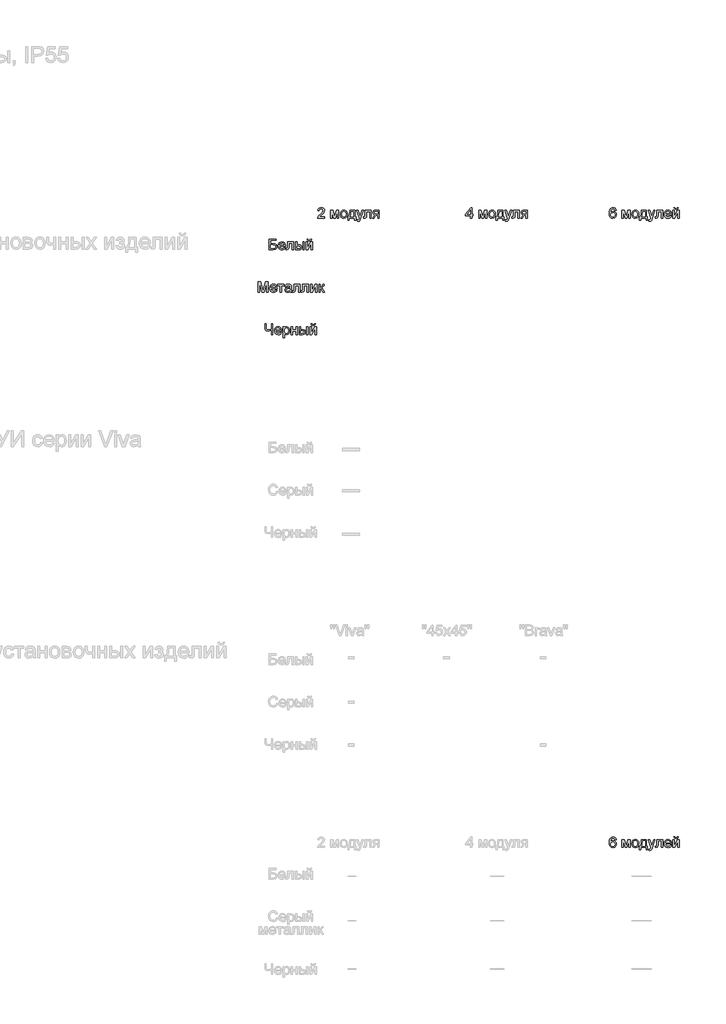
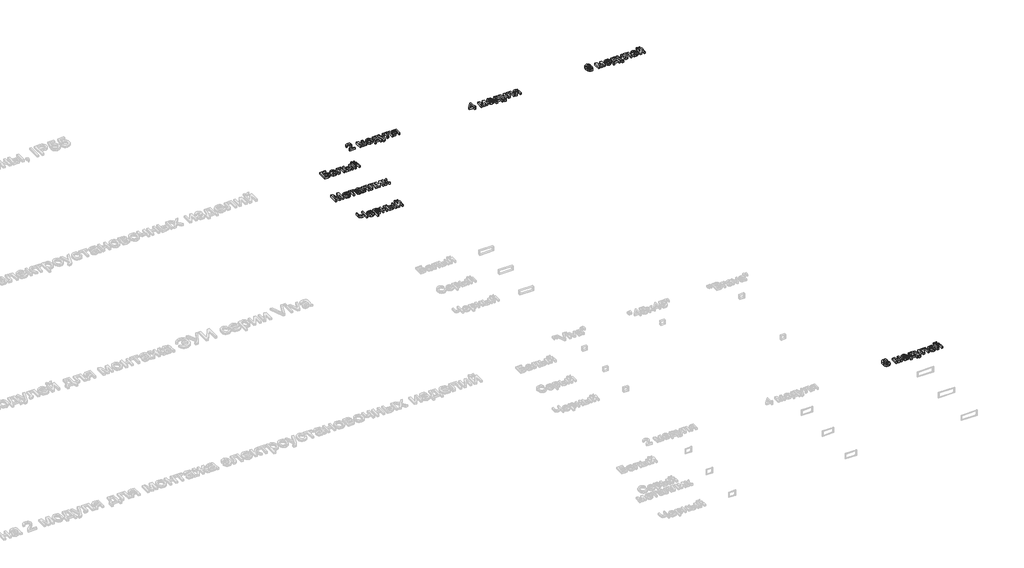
# One storey, part 24 of 48: 7 proxies.
"""IFC4 building model written with IfcOpenShell, lengths in millimetres."""

from ifc_helpers import new_model, si_unit, origin, origin_with_axes, place, context, project, spatial, polyline, outline, extrude, element, save

model = new_model("IFC4")

# Units and contexts
model_context = context("Model", 3, world=origin())
ifc_project = project(units=[si_unit("LENGTHUNIT", "METRE", prefix="MILLI")], contexts=[model_context])

# Site, building, storey
site = spatial("IfcSite", under=ifc_project)
building = spatial("IfcBuilding", under=site)
storey = spatial("IfcBuildingStorey", under=building, Name="Этаж 01", Elevation=0.0)

# Proxies
placement = place(None, origin())
element("IfcBuildingElementProxy", 1, Name="100 мм Arial", ObjectType="100 мм Arial", at=placement, inside=storey, context=model_context, shape_type="SweptSolid", body=[
    extrude(outline(polyline([(76522.1539109, -1626.7847001), (76584.9391047, -1626.7847001), (76584.9391047, -1639.3417388), (76534.7109496, -1639.3417388), (76534.7109496, -1669.1647059), (76558.2308719, -1669.1647059), (76578.9548909, -1671.7153544), (76591.2912005, -1681.3538627), (76595.9265136, -1697.8349761), (76592.6278384, -1712.1455857), (76582.7808637, -1723.02263), (76560.4872148, -1727.2410102), (76522.1539109, -1727.2410102), (76522.1539109, -1626.7847001)]), holes=[polyline([(76534.7109496, -1714.6839714), (76561.6153862, -1714.6839714), (76577.9248213, -1710.5391676), (76582.0083115, -1705.3581629), (76583.3694749, -1698.1047562), (76580.2547406, -1688.2700442), (76571.5849883, -1683.0215944), (76552.663591, -1681.7217447), (76534.7109496, -1681.7217447), (76534.7109496, -1714.6839714)])]), origin_with_axes(), (0.0, 0.0, 1.0), 20.0),
    extrude(outline(polyline([(76663.2734442, -1705.2661924), (76675.5852283, -1706.8358222), (76671.1491846, -1716.1125799), (76664.0705219, -1723.0471555), (76654.5086557, -1727.3697689), (76642.6230015, -1728.8106401), (76627.8893276, -1726.3243709), (76616.5524308, -1718.8655635), (76609.3235496, -1706.9185957), (76606.9139225, -1690.9678455), (76609.3480751, -1674.4806007), (76616.6505327, -1662.1504225), (76627.8341453, -1654.4616888), (76641.911763, -1651.8987776), (76655.550988, -1654.4555575), (76666.4494921, -1662.1258971), (76673.5955999, -1674.4315498), (76675.9776358, -1690.8942691), (76675.9040594, -1694.2787834), (76619.4709613, -1694.2787834), (76621.6445308, -1703.6781684), (76626.6937112, -1710.5882186), (76633.9808403, -1714.8372556), (76642.8682562, -1716.2536013), (76655.1800403, -1713.6293764), (76663.2734442, -1705.2661924)]), holes=[polyline([(76619.4709613, -1681.7217447), (76663.420597, -1681.7217447), (76658.3928764, -1670.3419283), (76651.0720247, -1665.9273444), (76641.8627121, -1664.4558164), (76626.3994056, -1669.1524432), (76621.5341662, -1674.643082), (76619.4709613, -1681.7217447)])]), origin_with_axes(), (0.0, 0.0, 1.0), 20.0),
    extrude(outline(polyline([(76694.8131939, -1653.4684074), (76751.3198684, -1653.4684074), (76751.3198684, -1727.1674338), (76738.7628296, -1727.1674338), (76738.7628296, -1666.0254462), (76707.3702327, -1666.0254462), (76707.3702327, -1701.2194904), (76706.5241041, -1717.4553491), (76701.8765282, -1724.310217), (76690.8891193, -1727.2410102), (76680.6865253, -1726.6033481), (76680.6865253, -1714.6839714), (76686.3028571, -1714.6839714), (76691.9805026, -1713.9114193), (76694.2491082, -1711.4588726), (76694.8131939, -1700.5082519), (76694.8131939, -1653.4684074)])), origin_with_axes(), (0.0, 0.0, 1.0), 20.0),
    extrude(outline(polyline([(76839.2191398, -1653.4684074), (76851.7761785, -1653.4684074), (76851.7761785, -1727.2410102), (76839.2191398, -1727.2410102), (76839.2191398, -1653.4684074)])), origin_with_axes(), (0.0, 0.0, 1.0), 20.0),
    extrude(outline(polyline([(76770.1554265, -1653.4684074), (76782.7124653, -1653.4684074), (76782.7124653, -1680.1521148), (76798.2370855, -1680.1521148), (76811.6555813, -1681.7248104), (76821.5975922, -1686.442897), (76827.7504186, -1693.9262299), (76829.8013607, -1703.7946644), (76828.0815124, -1712.7801821), (76822.9219674, -1720.3616169), (76813.9855006, -1725.5211619), (76800.9348868, -1727.2410102), (76770.1554265, -1727.2410102), (76770.1554265, -1653.4684074)]), holes=[polyline([(76782.7124653, -1714.6839714), (76795.6128606, -1714.6839714), (76812.2656523, -1712.0474838), (76817.2443219, -1703.8191899), (76813.5532392, -1696.093668), (76797.2560669, -1692.7091536), (76782.7124653, -1692.7091536), (76782.7124653, -1714.6839714)])]), origin_with_axes(), (0.0, 0.0, 1.0), 20.0),
    extrude(outline(polyline([(76870.6117367, -1653.4684074), (76883.1687755, -1653.4684074), (76883.1687755, -1709.7298272), (76914.0218121, -1653.4684074), (76930.2576708, -1653.4684074), (76930.2576708, -1727.2410102), (76917.7006321, -1727.2410102), (76917.7006321, -1671.3229469), (76887.0437991, -1727.2410102), (76870.6117367, -1727.2410102), (76870.6117367, -1653.4684074)])), origin_with_axes(), (0.0, 0.0, 1.0), 20.0),
    extrude(outline(polyline([(76911.4221127, -1626.7847001), (76920.8398918, -1626.7847001), (76914.7453134, -1640.7519531), (76901.2195187, -1645.6202582), (76886.5778153, -1640.7887413), (76880.0295158, -1626.7847001), (76889.4472948, -1626.7847001), (76892.978962, -1633.8602971), (76900.0913472, -1636.2024791), (76907.8904455, -1633.9338735), (76911.4221127, -1626.7847001)])), origin_with_axes(), (0.0, 0.0, 1.0), 20.0),
])
element("IfcBuildingElementProxy", 2, Name="100 мм Arial", ObjectType="100 мм Arial", at=placement, inside=storey, context=model_context, shape_type="SweptSolid", body=[
    extrude(outline(polyline([(76418.558341, -2127.2410102), (76418.558341, -2026.7847001), (76440.1652769, -2026.7847001), (76460.7176177, -2097.5897214), (76464.8624215, -2112.3785776), (76469.3505818, -2096.3634481), (76489.5595661, -2026.7847001), (76511.1665019, -2026.7847001), (76511.1665019, -2127.2410102), (76498.6094632, -2127.2410102), (76498.6094632, -2039.3417388), (76473.3727583, -2127.2410102), (76456.3520847, -2127.2410102), (76431.1153798, -2039.3417388), (76431.1153798, -2127.2410102), (76418.558341, -2127.2410102)])), origin_with_axes(), (0.0, 0.0, 1.0), 20.0),
    extrude(outline(polyline([(76583.2223221, -2105.2661924), (76595.5341062, -2106.8358222), (76591.0980624, -2116.1125799), (76584.0193997, -2123.0471555), (76574.4575335, -2127.3697689), (76562.5718794, -2128.8106401), (76547.8382055, -2126.3243709), (76536.5013087, -2118.8655635), (76529.2724275, -2106.9185957), (76526.8628004, -2090.9678455), (76529.2969529, -2074.4806007), (76536.5994105, -2062.1504225), (76547.7830232, -2054.4616888), (76561.8606409, -2051.8987776), (76575.4998658, -2054.4555575), (76586.3983699, -2062.1258971), (76593.5444777, -2074.4315498), (76595.9265136, -2090.8942691), (76595.8529372, -2094.2787834), (76539.4198392, -2094.2787834), (76541.5934086, -2103.6781684), (76546.642589, -2110.5882186), (76553.9297182, -2114.8372556), (76562.8171341, -2116.2536013), (76575.1289182, -2113.6293764), (76583.2223221, -2105.2661924)]), holes=[polyline([(76539.4198392, -2081.7217447), (76583.3694749, -2081.7217447), (76578.3417543, -2070.3419283), (76571.0209026, -2065.9273444), (76561.8115899, -2064.4558164), (76546.3482834, -2069.1524432), (76541.483044, -2074.643082), (76539.4198392, -2081.7217447)])]), origin_with_axes(), (0.0, 0.0, 1.0), 20.0),
    extrude(outline(polyline([(76602.205033, -2053.4684074), (76661.8509672, -2053.4684074), (76661.8509672, -2066.0254462), (76638.3065195, -2066.0254462), (76638.3065195, -2127.2410102), (76625.7494807, -2127.2410102), (76625.7494807, -2066.0254462), (76602.205033, -2066.0254462), (76602.205033, -2053.4684074)])), origin_with_axes(), (0.0, 0.0, 1.0), 20.0),
    extrude(outline(polyline([(76719.9272715, -2117.8232311), (76707.7503774, -2126.333568), (76694.2981591, -2128.8106401), (76683.8043252, -2127.320718), (76676.0634749, -2122.8509517), (76671.290206, -2116.0635289), (76669.6991164, -2107.6206371), (76672.1026121, -2097.6878233), (76678.4179197, -2090.4773362), (76687.2102994, -2086.3570578), (76698.075081, -2084.4685969), (76719.8536951, -2080.1521148), (76719.9272715, -2077.3562117), (76716.4691807, -2068.0855854), (76702.5877668, -2064.4558164), (76689.8835752, -2066.8715748), (76683.825785, -2075.4432253), (76671.2687462, -2073.8735954), (76676.701137, -2061.6108623), (76687.639495, -2054.4249006), (76704.2064475, -2051.8987776), (76719.4244994, -2054.130595), (76728.0206754, -2059.7346641), (76731.8711736, -2068.2572637), (76732.4843102, -2079.2446726), (76732.4843102, -2094.8673946), (76733.1219724, -2116.682797), (76735.6235699, -2127.2410102), (76723.0665312, -2127.2410102), (76719.9272715, -2117.8232311)]), holes=[polyline([(76719.9272715, -2092.7091536), (76699.6692363, -2096.5596518), (76688.8657683, -2098.5952655), (76683.9729378, -2101.9062035), (76682.2561552, -2106.7377204), (76685.9962888, -2113.5312745), (76696.971435, -2116.2536013), (76709.6756265, -2113.2492317), (76717.8671323, -2105.9774309), (76719.8536951, -2096.2653462), (76719.9272715, -2092.7091536)])]), origin_with_axes(), (0.0, 0.0, 1.0), 20.0),
    extrude(outline(polyline([(76756.0287579, -2053.4684074), (76812.5354324, -2053.4684074), (76812.5354324, -2127.1674338), (76799.9783936, -2127.1674338), (76799.9783936, -2066.0254462), (76768.5857967, -2066.0254462), (76768.5857967, -2101.2194904), (76767.7396681, -2117.4553491), (76763.0920922, -2124.310217), (76752.1046833, -2127.2410102), (76741.9020893, -2126.6033481), (76741.9020893, -2114.6839714), (76747.5184211, -2114.6839714), (76753.1960666, -2113.9114193), (76755.4646722, -2111.4588726), (76756.0287579, -2100.5082519), (76756.0287579, -2053.4684074)])), origin_with_axes(), (0.0, 0.0, 1.0), 20.0),
    extrude(outline(polyline([(76837.6495099, -2053.4684074), (76894.1561844, -2053.4684074), (76894.1561844, -2127.1674338), (76881.5991456, -2127.1674338), (76881.5991456, -2066.0254462), (76850.2065487, -2066.0254462), (76850.2065487, -2101.2194904), (76849.3604201, -2117.4553491), (76844.7128442, -2124.310217), (76833.7254353, -2127.2410102), (76823.5228413, -2126.6033481), (76823.5228413, -2114.6839714), (76829.1391731, -2114.6839714), (76834.8168186, -2113.9114193), (76837.0854242, -2111.4588726), (76837.6495099, -2100.5082519), (76837.6495099, -2053.4684074)])), origin_with_axes(), (0.0, 0.0, 1.0), 20.0),
    extrude(outline(polyline([(76912.9917425, -2053.4684074), (76925.5487813, -2053.4684074), (76925.5487813, -2109.7298272), (76956.401818, -2053.4684074), (76972.6376767, -2053.4684074), (76972.6376767, -2127.2410102), (76960.0806379, -2127.2410102), (76960.0806379, -2071.3229469), (76929.423805, -2127.2410102), (76912.9917425, -2127.2410102), (76912.9917425, -2053.4684074)])), origin_with_axes(), (0.0, 0.0, 1.0), 20.0),
    extrude(outline(polyline([(76991.4732348, -2053.4684074), (77004.0302736, -2053.4684074), (77004.0302736, -2084.8610044), (77012.4425086, -2082.6046615), (77019.3341646, -2069.4590115), (77025.060861, -2058.1159833), (77030.1131071, -2054.4249006), (77039.2978942, -2053.4684074), (77041.7013899, -2053.4684074), (77041.7013899, -2066.0990226), (77038.3168756, -2066.0254462), (77032.185509, -2067.3498214), (77027.8690269, -2075.6149036), (77022.8045181, -2084.554436), (77015.7043956, -2088.9322318), (77023.6261212, -2093.818931), (77031.400694, -2104.1134955), (77044.8406496, -2127.2410102), (77030.5668282, -2127.2410102), (77017.3966528, -2104.6040048), (77010.7747769, -2095.0268102), (77004.0302736, -2092.7091536), (77004.0302736, -2127.2410102), (76991.4732348, -2127.2410102), (76991.4732348, -2053.4684074)])), origin_with_axes(), (0.0, 0.0, 1.0), 20.0),
])
element("IfcBuildingElementProxy", 3, Name="100 мм Arial", ObjectType="100 мм Arial", at=placement, inside=storey, context=model_context, shape_type="SweptSolid", body=[
    extrude(outline(polyline([(76555.9009525, -2527.2410102), (76543.3439138, -2527.2410102), (76543.3439138, -2487.0192454), (76512.2456225, -2494.2787834), (76493.8883109, -2489.3123765), (76483.2442585, -2476.7062868), (76480.5587199, -2456.705769), (76480.5587199, -2426.7847001), (76493.1157587, -2426.7847001), (76493.1157587, -2455.0135118), (76494.6240749, -2468.5914231), (76499.1490234, -2476.559134), (76513.643574, -2481.7217447), (76543.3439138, -2475.4922762), (76543.3439138, -2426.7847001), (76555.9009525, -2426.7847001), (76555.9009525, -2527.2410102)])), origin_with_axes(), (0.0, 0.0, 1.0), 20.0),
    extrude(outline(polyline([(76627.9567727, -2505.2661924), (76640.2685568, -2506.8358222), (76635.8325131, -2516.1125799), (76628.7538503, -2523.0471555), (76619.1919841, -2527.3697689), (76607.30633, -2528.8106401), (76592.5726561, -2526.3243709), (76581.2357593, -2518.8655635), (76574.0068781, -2506.9185957), (76571.597251, -2490.9678455), (76574.0314035, -2474.4806007), (76581.3338611, -2462.1504225), (76592.5174738, -2454.4616888), (76606.5950915, -2451.8987776), (76620.2343165, -2454.4555575), (76631.1328206, -2462.1258971), (76638.2789283, -2474.4315498), (76640.6609642, -2490.8942691), (76640.5873878, -2494.2787834), (76584.1542898, -2494.2787834), (76586.3278592, -2503.6781684), (76591.3770396, -2510.5882186), (76598.6641688, -2514.8372556), (76607.5515847, -2516.2536013), (76619.8633688, -2513.6293764), (76627.9567727, -2505.2661924)]), holes=[polyline([(76584.1542898, -2481.7217447), (76628.1039255, -2481.7217447), (76623.0762049, -2470.3419283), (76615.7553532, -2465.9273444), (76606.5460406, -2464.4558164), (76591.082734, -2469.1524432), (76586.2174946, -2474.643082), (76584.1542898, -2481.7217447)])]), origin_with_axes(), (0.0, 0.0, 1.0), 20.0),
    extrude(outline(polyline([(76653.218003, -2555.4943474), (76653.218003, -2453.4684074), (76665.7750418, -2453.4684074), (76665.7750418, -2465.7801916), (76674.4570569, -2455.3691311), (76686.1802298, -2451.8987776), (76702.0972574, -2456.7548199), (76712.4960552, -2470.4400302), (76716.0031969, -2489.7906231), (76712.042334, -2510.1344974), (76700.5398903, -2523.9913859), (76684.6596509, -2528.8106401), (76673.7335556, -2525.5855412), (76665.7750418, -2517.4308237), (76665.7750418, -2555.4943474), (76653.218003, -2555.4943474)]), holes=[polyline([(76665.7750418, -2490.94332), (76667.1331395, -2502.2005091), (76671.2074326, -2510.0731838), (76677.2192375, -2514.7084969), (76684.3898707, -2516.2536013), (76691.6769999, -2514.6533146), (76697.842089, -2509.8524546), (76702.0451408, -2501.6916057), (76703.4461581, -2490.0113523), (76702.0788633, -2478.8154769), (76697.9769791, -2470.8324376), (76691.9743712, -2466.0499717), (76684.9049055, -2464.4558164), (76677.8078487, -2466.1511392), (76671.5753146, -2471.2371078), (76667.22511, -2479.5543066), (76665.7750418, -2490.94332)])]), origin_with_axes(), (0.0, 0.0, 1.0), 20.0),
    extrude(outline(polyline([(76730.1298655, -2453.4684074), (76742.6869042, -2453.4684074), (76742.6869042, -2481.7217447), (76775.649131, -2481.7217447), (76775.649131, -2453.4684074), (76788.2061698, -2453.4684074), (76788.2061698, -2527.2410102), (76775.649131, -2527.2410102), (76775.649131, -2494.2787834), (76742.6869042, -2494.2787834), (76742.6869042, -2527.2410102), (76730.1298655, -2527.2410102), (76730.1298655, -2453.4684074)])), origin_with_axes(), (0.0, 0.0, 1.0), 20.0),
    extrude(outline(polyline([(76876.1054412, -2453.4684074), (76888.6624799, -2453.4684074), (76888.6624799, -2527.2410102), (76876.1054412, -2527.2410102), (76876.1054412, -2453.4684074)])), origin_with_axes(), (0.0, 0.0, 1.0), 20.0),
    extrude(outline(polyline([(76807.0417279, -2453.4684074), (76819.5987667, -2453.4684074), (76819.5987667, -2480.1521148), (76835.1233869, -2480.1521148), (76848.5418827, -2481.7248104), (76858.4838936, -2486.442897), (76864.63672, -2493.9262299), (76866.6876621, -2503.7946644), (76864.9678137, -2512.7801821), (76859.8082688, -2520.3616169), (76850.871802, -2525.5211619), (76837.8211882, -2527.2410102), (76807.0417279, -2527.2410102), (76807.0417279, -2453.4684074)]), holes=[polyline([(76819.5987667, -2514.6839714), (76832.499162, -2514.6839714), (76849.1519536, -2512.0474838), (76854.1306233, -2503.8191899), (76850.4395406, -2496.093668), (76834.1423682, -2492.7091536), (76819.5987667, -2492.7091536), (76819.5987667, -2514.6839714)])]), origin_with_axes(), (0.0, 0.0, 1.0), 20.0),
    extrude(outline(polyline([(76907.4980381, -2453.4684074), (76920.0550768, -2453.4684074), (76920.0550768, -2509.7298272), (76950.9081135, -2453.4684074), (76967.1439722, -2453.4684074), (76967.1439722, -2527.2410102), (76954.5869335, -2527.2410102), (76954.5869335, -2471.3229469), (76923.9301005, -2527.2410102), (76907.4980381, -2527.2410102), (76907.4980381, -2453.4684074)])), origin_with_axes(), (0.0, 0.0, 1.0), 20.0),
    extrude(outline(polyline([(76948.3084141, -2426.7847001), (76957.7261931, -2426.7847001), (76951.6316148, -2440.7519531), (76938.1058201, -2445.6202582), (76923.4641167, -2440.7887413), (76916.9158171, -2426.7847001), (76926.3335962, -2426.7847001), (76929.8652634, -2433.8602971), (76936.9776486, -2436.2024791), (76944.7767469, -2433.9338735), (76948.3084141, -2426.7847001)])), origin_with_axes(), (0.0, 0.0, 1.0), 20.0),
])
element("IfcBuildingElementProxy", 4, Name="100 мм Arial", ObjectType="100 мм Arial", at=placement, inside=storey, context=model_context, shape_type="SweptSolid", body=[
    extrude(outline(polyline([(77045.8481443, -1415.9173564), (77045.8481443, -1428.4743951), (76979.9236908, -1428.4743951), (76981.2725914, -1419.8169055), (76988.9000115, -1406.4873146), (77004.6208354, -1391.9314503), (77026.3013476, -1371.0112275), (77031.7214757, -1356.786457), (77026.607916, -1345.2717506), (77013.2537995, -1340.5751238), (76999.3355974, -1345.161386), (76994.0503594, -1357.8410521), (76981.4933206, -1356.2714222), (76984.5375441, -1344.125185), (76991.1195662, -1335.2530976), (77000.8960302, -1329.8268381), (77013.5235797, -1328.018085), (77026.2430997, -1330.0291732), (77036.0011696, -1336.0624379), (77042.2091783, -1345.0755468), (77044.2785145, -1356.0261676), (77042.046697, -1367.9332815), (77034.6277435, -1380.2450656), (77016.6383139, -1397.4496802), (77002.1928142, -1409.5284724), (76996.5274315, -1415.9173564), (77045.8481443, -1415.9173564)])), origin_with_axes(), (0.0, 0.0, 1.0), 20.0),
    extrude(outline(polyline([(77100.7851889, -1354.7017924), (77122.3921248, -1354.7017924), (77139.0449164, -1413.7591153), (77156.9975578, -1354.7017924), (77177.6970514, -1354.7017924), (77177.6970514, -1428.4743951), (77165.1400126, -1428.4743951), (77165.1400126, -1369.0737156), (77147.0892694, -1428.4743951), (77130.608156, -1428.4743951), (77113.3422277, -1366.2287616), (77113.3422277, -1428.4743951), (77100.7851889, -1428.4743951), (77100.7851889, -1354.7017924)])), origin_with_axes(), (0.0, 0.0, 1.0), 20.0),
    extrude(outline(polyline([(77193.3933499, -1391.5880938), (77196.1095453, -1373.8009993), (77204.2581314, -1361.2991428), (77214.3258354, -1355.1739076), (77226.3801021, -1353.1321625), (77239.5717373, -1355.6184317), (77250.1084908, -1363.0772391), (77257.0154752, -1374.9199737), (77259.3178034, -1390.5580242), (77255.246576, -1412.900724), (77243.388513, -1425.5436019), (77226.3801021, -1430.044025), (77213.0290513, -1427.5669529), (77202.5045606, -1420.1357366), (77195.6711525, -1408.0446817), (77193.3933499, -1391.5880938)]), holes=[polyline([(77205.9503886, -1391.5635683), (77207.4035225, -1402.9280563), (77211.7629241, -1411.0245258), (77218.3234864, -1415.8713711), (77226.3801021, -1417.4869862), (77234.3999296, -1415.8621741), (77240.9482291, -1410.9877376), (77245.3076307, -1402.7839691), (77246.7607646, -1391.1711608), (77245.2984337, -1380.1377667), (77240.9114409, -1372.1516617), (77234.3539443, -1367.3048164), (77226.3801021, -1365.6892013), (77218.3234864, -1367.298685), (77211.7629241, -1372.1271362), (77207.4035225, -1380.2052117), (77205.9503886, -1391.5635683)])]), origin_with_axes(), (0.0, 0.0, 1.0), 20.0),
    extrude(outline(polyline([(77284.4318809, -1354.7017924), (77331.5207763, -1354.7017924), (77331.5207763, -1415.9173564), (77340.9385554, -1415.9173564), (77340.9385554, -1448.8795831), (77328.3815166, -1448.8795831), (77328.3815166, -1428.4743951), (77276.5837317, -1428.4743951), (77276.5837317, -1448.8795831), (77264.0266929, -1448.8795831), (77264.0266929, -1415.9173564), (77271.8748422, -1415.9173564), (77281.5746641, -1391.9682385), (77284.4318809, -1354.7017924)]), holes=[polyline([(77295.4192899, -1367.2588311), (77292.4762339, -1395.8677876), (77286.0015108, -1415.9173564), (77318.9637375, -1415.9173564), (77318.9637375, -1367.2588311), (77295.4192899, -1367.2588311)])]), origin_with_axes(), (0.0, 0.0, 1.0), 20.0),
    extrude(outline(polyline([(77355.065224, -1456.7277324), (77353.4955942, -1444.6366775), (77359.8722154, -1445.7403234), (77365.8319037, -1444.3546346), (77369.4861982, -1440.4918736), (77372.9197635, -1431.2457728), (77373.9007822, -1428.204615), (77347.2170748, -1354.7017924), (77360.4608266, -1354.7017924), (77374.6120207, -1395.6593212), (77379.5416394, -1412.0423327), (77384.4712581, -1397.5723075), (77399.0148597, -1354.7017924), (77412.1605097, -1354.7017924), (77386.4823464, -1430.2402287), (77379.8114195, -1446.6232402), (77372.527356, -1455.4769336), (77362.741695, -1458.2973622), (77355.065224, -1456.7277324)])), origin_with_axes(), (0.0, 0.0, 1.0), 20.0),
    extrude(outline(polyline([(77428.8378268, -1354.7017924), (77485.3445012, -1354.7017924), (77485.3445012, -1428.4008187), (77472.7874625, -1428.4008187), (77472.7874625, -1367.2588311), (77441.3948655, -1367.2588311), (77441.3948655, -1402.4528753), (77440.5487369, -1418.6887341), (77435.9011611, -1425.5436019), (77424.9137522, -1428.4743951), (77414.7111582, -1427.836733), (77414.7111582, -1415.9173564), (77420.3274899, -1415.9173564), (77426.0051354, -1415.1448042), (77428.273741, -1412.6922575), (77428.8378268, -1401.7416368), (77428.8378268, -1354.7017924)])), origin_with_axes(), (0.0, 0.0, 1.0), 20.0),
    extrude(outline(polyline([(77560.6867338, -1354.7017924), (77560.6867338, -1428.4743951), (77548.1296951, -1428.4743951), (77548.1296951, -1400.2210579), (77541.28709, -1400.2210579), (77531.9674127, -1401.8152132), (77523.2118213, -1412.532842), (77513.205431, -1428.4743951), (77498.6863549, -1428.4743951), (77511.2924446, -1408.3144618), (77521.9855479, -1397.8666131), (77513.4016347, -1395.2362569), (77507.36837, -1390.2391931), (77502.6104295, -1376.0144226), (77504.2352417, -1367.4182467), (77509.1096781, -1360.6124298), (77517.0620606, -1356.1794517), (77527.9207108, -1354.7017924), (77560.6867338, -1354.7017924)]), holes=[polyline([(77548.1296951, -1367.2588311), (77531.5750053, -1367.2588311), (77518.1718379, -1370.1650989), (77515.1674683, -1376.9709158), (77519.594315, -1385.0765824), (77535.2783507, -1387.6640191), (77548.1296951, -1387.6640191), (77548.1296951, -1367.2588311)])]), origin_with_axes(), (0.0, 0.0, 1.0), 20.0),
])
element("IfcBuildingElementProxy", 5, Name="100 мм Arial", ObjectType="100 мм Arial", at=placement, inside=storey, context=model_context, shape_type="SweptSolid", body=[
    extrude(outline(polyline([(78422.3036966, -1428.4743951), (78422.3036966, -1404.9299474), (78376.7844311, -1404.9299474), (78376.7844311, -1392.3729087), (78425.4429563, -1329.5877148), (78434.8607354, -1329.5877148), (78434.8607354, -1392.3729087), (78447.4177742, -1392.3729087), (78447.4177742, -1404.9299474), (78434.8607354, -1404.9299474), (78434.8607354, -1428.4743951), (78422.3036966, -1428.4743951)]), holes=[polyline([(78422.3036966, -1392.3729087), (78422.3036966, -1353.5736209), (78392.2354749, -1392.3729087), (78422.3036966, -1392.3729087)])]), origin_with_axes(), (0.0, 0.0, 1.0), 20.0),
    extrude(outline(polyline([(78500.7851889, -1354.7017924), (78522.3921248, -1354.7017924), (78539.0449164, -1413.7591153), (78556.9975578, -1354.7017924), (78577.6970514, -1354.7017924), (78577.6970514, -1428.4743951), (78565.1400126, -1428.4743951), (78565.1400126, -1369.0737156), (78547.0892694, -1428.4743951), (78530.608156, -1428.4743951), (78513.3422277, -1366.2287616), (78513.3422277, -1428.4743951), (78500.7851889, -1428.4743951), (78500.7851889, -1354.7017924)])), origin_with_axes(), (0.0, 0.0, 1.0), 20.0),
    extrude(outline(polyline([(78593.3933499, -1391.5880938), (78596.1095453, -1373.8009993), (78604.2581314, -1361.2991428), (78614.3258354, -1355.1739076), (78626.3801021, -1353.1321625), (78639.5717373, -1355.6184317), (78650.1084908, -1363.0772391), (78657.0154752, -1374.9199737), (78659.3178034, -1390.5580242), (78655.246576, -1412.900724), (78643.388513, -1425.5436019), (78626.3801021, -1430.044025), (78613.0290513, -1427.5669529), (78602.5045606, -1420.1357366), (78595.6711525, -1408.0446817), (78593.3933499, -1391.5880938)]), holes=[polyline([(78605.9503886, -1391.5635683), (78607.4035225, -1402.9280563), (78611.7629241, -1411.0245258), (78618.3234864, -1415.8713711), (78626.3801021, -1417.4869862), (78634.3999296, -1415.8621741), (78640.9482291, -1410.9877376), (78645.3076307, -1402.7839691), (78646.7607646, -1391.1711608), (78645.2984337, -1380.1377667), (78640.9114409, -1372.1516617), (78634.3539443, -1367.3048164), (78626.3801021, -1365.6892013), (78618.3234864, -1367.298685), (78611.7629241, -1372.1271362), (78607.4035225, -1380.2052117), (78605.9503886, -1391.5635683)])]), origin_with_axes(), (0.0, 0.0, 1.0), 20.0),
    extrude(outline(polyline([(78684.4318809, -1354.7017924), (78731.5207763, -1354.7017924), (78731.5207763, -1415.9173564), (78740.9385554, -1415.9173564), (78740.9385554, -1448.8795831), (78728.3815166, -1448.8795831), (78728.3815166, -1428.4743951), (78676.5837317, -1428.4743951), (78676.5837317, -1448.8795831), (78664.0266929, -1448.8795831), (78664.0266929, -1415.9173564), (78671.8748422, -1415.9173564), (78681.5746641, -1391.9682385), (78684.4318809, -1354.7017924)]), holes=[polyline([(78695.4192899, -1367.2588311), (78692.4762339, -1395.8677876), (78686.0015108, -1415.9173564), (78718.9637375, -1415.9173564), (78718.9637375, -1367.2588311), (78695.4192899, -1367.2588311)])]), origin_with_axes(), (0.0, 0.0, 1.0), 20.0),
    extrude(outline(polyline([(78755.065224, -1456.7277324), (78753.4955942, -1444.6366775), (78759.8722154, -1445.7403234), (78765.8319037, -1444.3546346), (78769.4861982, -1440.4918736), (78772.9197635, -1431.2457728), (78773.9007822, -1428.204615), (78747.2170748, -1354.7017924), (78760.4608266, -1354.7017924), (78774.6120207, -1395.6593212), (78779.5416394, -1412.0423327), (78784.4712581, -1397.5723075), (78799.0148597, -1354.7017924), (78812.1605097, -1354.7017924), (78786.4823464, -1430.2402287), (78779.8114195, -1446.6232402), (78772.527356, -1455.4769336), (78762.741695, -1458.2973622), (78755.065224, -1456.7277324)])), origin_with_axes(), (0.0, 0.0, 1.0), 20.0),
    extrude(outline(polyline([(78828.8378268, -1354.7017924), (78885.3445012, -1354.7017924), (78885.3445012, -1428.4008187), (78872.7874625, -1428.4008187), (78872.7874625, -1367.2588311), (78841.3948655, -1367.2588311), (78841.3948655, -1402.4528753), (78840.5487369, -1418.6887341), (78835.9011611, -1425.5436019), (78824.9137522, -1428.4743951), (78814.7111582, -1427.836733), (78814.7111582, -1415.9173564), (78820.3274899, -1415.9173564), (78826.0051354, -1415.1448042), (78828.273741, -1412.6922575), (78828.8378268, -1401.7416368), (78828.8378268, -1354.7017924)])), origin_with_axes(), (0.0, 0.0, 1.0), 20.0),
    extrude(outline(polyline([(78960.6867338, -1354.7017924), (78960.6867338, -1428.4743951), (78948.1296951, -1428.4743951), (78948.1296951, -1400.2210579), (78941.28709, -1400.2210579), (78931.9674127, -1401.8152132), (78923.2118213, -1412.532842), (78913.205431, -1428.4743951), (78898.6863549, -1428.4743951), (78911.2924446, -1408.3144618), (78921.9855479, -1397.8666131), (78913.4016347, -1395.2362569), (78907.36837, -1390.2391931), (78902.6104295, -1376.0144226), (78904.2352417, -1367.4182467), (78909.1096781, -1360.6124298), (78917.0620606, -1356.1794517), (78927.9207108, -1354.7017924), (78960.6867338, -1354.7017924)]), holes=[polyline([(78948.1296951, -1367.2588311), (78931.5750053, -1367.2588311), (78918.1718379, -1370.1650989), (78915.1674683, -1376.9709158), (78919.594315, -1385.0765824), (78935.2783507, -1387.6640191), (78948.1296951, -1387.6640191), (78948.1296951, -1367.2588311)])]), origin_with_axes(), (0.0, 0.0, 1.0), 20.0),
])
element("IfcBuildingElementProxy", 6, Name="100 мм Arial", ObjectType="100 мм Arial", at=placement, inside=storey, context=model_context, shape_type="SweptSolid", body=[
    extrude(outline(polyline([(79799.9725832, -1354.7017924), (79787.4155445, -1356.2714222), (79782.657604, -1345.7990481), (79770.0760398, -1340.5751238), (79758.7452743, -1343.6162816), (79750.1736238, -1355.0328862), (79746.6051685, -1377.4123742), (79757.6784165, -1367.3937212), (79771.400415, -1364.1195714), (79783.0009605, -1366.3575203), (79792.7375707, -1373.0713667), (79799.3410525, -1383.329143), (79801.5422131, -1396.1988814), (79797.3974093, -1413.5261234), (79785.9930674, -1425.7888566), (79769.5364795, -1430.044025), (79755.2902492, -1427.2235964), (79743.9441554, -1418.7623105), (79736.5221361, -1403.8263015), (79734.0481297, -1381.5817035), (79736.7949819, -1356.5718592), (79745.0355386, -1339.4714778), (79756.2865963, -1330.8814332), (79770.8608547, -1328.018085), (79781.8789205, -1329.7900499), (79790.701957, -1335.1059448), (79796.8823745, -1343.5488366), (79799.9725832, -1354.7017924)]), holes=[polyline([(79746.6051685, -1396.0026777), (79749.5114362, -1406.879722), (79757.2369581, -1414.7769222), (79768.5554609, -1417.4869862), (79776.8420028, -1416.0829033), (79783.3565798, -1411.8706544), (79787.5780257, -1405.2487785), (79788.9851743, -1396.6158144), (79787.5964198, -1388.3292724), (79783.4301562, -1382.0108991), (79776.8052146, -1378.0101824), (79768.0404261, -1376.6766102), (79752.8468997, -1382.0108991), (79748.1656013, -1388.1759882), (79746.6051685, -1396.0026777)])]), origin_with_axes(), (0.0, 0.0, 1.0), 20.0),
    extrude(outline(polyline([(79854.9096279, -1354.7017924), (79876.5165637, -1354.7017924), (79893.1693554, -1413.7591153), (79911.1219967, -1354.7017924), (79931.8214903, -1354.7017924), (79931.8214903, -1428.4743951), (79919.2644515, -1428.4743951), (79919.2644515, -1369.0737156), (79901.2137083, -1428.4743951), (79884.7325949, -1428.4743951), (79867.4666666, -1366.2287616), (79867.4666666, -1428.4743951), (79854.9096279, -1428.4743951), (79854.9096279, -1354.7017924)])), origin_with_axes(), (0.0, 0.0, 1.0), 20.0),
    extrude(outline(polyline([(79947.5177888, -1391.5880938), (79950.2339842, -1373.8009993), (79958.3825704, -1361.2991428), (79968.4502743, -1355.1739076), (79980.504541, -1353.1321625), (79993.6961762, -1355.6184317), (80004.2329297, -1363.0772391), (80011.1399142, -1374.9199737), (80013.4422423, -1390.5580242), (80009.3710149, -1412.900724), (79997.5129519, -1425.5436019), (79980.504541, -1430.044025), (79967.1534903, -1427.5669529), (79956.6289995, -1420.1357366), (79949.7955915, -1408.0446817), (79947.5177888, -1391.5880938)]), holes=[polyline([(79960.0748275, -1391.5635683), (79961.5279614, -1402.9280563), (79965.8873631, -1411.0245258), (79972.4479253, -1415.8713711), (79980.504541, -1417.4869862), (79988.5243685, -1415.8621741), (79995.072668, -1410.9877376), (79999.4320697, -1402.7839691), (80000.8852035, -1391.1711608), (79999.4228726, -1380.1377667), (79995.0358798, -1372.1516617), (79988.4783833, -1367.3048164), (79980.504541, -1365.6892013), (79972.4479253, -1367.298685), (79965.8873631, -1372.1271362), (79961.5279614, -1380.2052117), (79960.0748275, -1391.5635683)])]), origin_with_axes(), (0.0, 0.0, 1.0), 20.0),
    extrude(outline(polyline([(80038.5563199, -1354.7017924), (80085.6452152, -1354.7017924), (80085.6452152, -1415.9173564), (80095.0629943, -1415.9173564), (80095.0629943, -1448.8795831), (80082.5059555, -1448.8795831), (80082.5059555, -1428.4743951), (80030.7081706, -1428.4743951), (80030.7081706, -1448.8795831), (80018.1511319, -1448.8795831), (80018.1511319, -1415.9173564), (80025.9992811, -1415.9173564), (80035.699103, -1391.9682385), (80038.5563199, -1354.7017924)]), holes=[polyline([(80049.5437288, -1367.2588311), (80046.6006728, -1395.8677876), (80040.1259497, -1415.9173564), (80073.0881765, -1415.9173564), (80073.0881765, -1367.2588311), (80049.5437288, -1367.2588311)])]), origin_with_axes(), (0.0, 0.0, 1.0), 20.0),
    extrude(outline(polyline([(80109.1896629, -1456.7277324), (80107.6200331, -1444.6366775), (80113.9966543, -1445.7403234), (80119.9563427, -1444.3546346), (80123.6106371, -1440.4918736), (80127.0442024, -1431.2457728), (80128.0252211, -1428.204615), (80101.3415137, -1354.7017924), (80114.5852655, -1354.7017924), (80128.7364596, -1395.6593212), (80133.6660783, -1412.0423327), (80138.5956971, -1397.5723075), (80153.1392986, -1354.7017924), (80166.2849486, -1354.7017924), (80140.6067853, -1430.2402287), (80133.9358585, -1446.6232402), (80126.651795, -1455.4769336), (80116.8661339, -1458.2973622), (80109.1896629, -1456.7277324)])), origin_with_axes(), (0.0, 0.0, 1.0), 20.0),
    extrude(outline(polyline([(80182.9622657, -1354.7017924), (80239.4689402, -1354.7017924), (80239.4689402, -1428.4008187), (80226.9119014, -1428.4008187), (80226.9119014, -1367.2588311), (80195.5193045, -1367.2588311), (80195.5193045, -1402.4528753), (80194.6731759, -1418.6887341), (80190.0256, -1425.5436019), (80179.0381911, -1428.4743951), (80168.8355971, -1427.836733), (80168.8355971, -1415.9173564), (80174.4519289, -1415.9173564), (80180.1295743, -1415.1448042), (80182.39818, -1412.6922575), (80182.9622657, -1401.7416368), (80182.9622657, -1354.7017924)])), origin_with_axes(), (0.0, 0.0, 1.0), 20.0),
    extrude(outline(polyline([(80309.9551304, -1406.4995773), (80322.2669145, -1408.0692071), (80317.8308708, -1417.3459648), (80310.7522081, -1424.2805404), (80301.1903419, -1428.6031538), (80289.3046878, -1430.044025), (80274.5710139, -1427.5577558), (80263.234117, -1420.0989484), (80256.0052358, -1408.1519806), (80253.5956088, -1392.2012304), (80256.0297613, -1375.7139857), (80263.3322189, -1363.3838075), (80274.5158316, -1355.6950738), (80288.5934492, -1353.1321625), (80302.2326742, -1355.6889424), (80313.1311783, -1363.359282), (80320.2772861, -1375.6649347), (80322.659322, -1392.127654), (80322.5857456, -1395.5121684), (80266.1526475, -1395.5121684), (80268.326217, -1404.9115533), (80273.3753974, -1411.8216035), (80280.6625266, -1416.0706405), (80289.5499424, -1417.4869862), (80301.8617265, -1414.8627613), (80309.9551304, -1406.4995773)]), holes=[polyline([(80266.1526475, -1382.9551296), (80310.1022832, -1382.9551296), (80305.0745626, -1371.5753132), (80297.7537109, -1367.1607293), (80288.5443983, -1365.6892013), (80273.0810918, -1370.3858281), (80268.2158524, -1375.8764669), (80266.1526475, -1382.9551296)])]), origin_with_axes(), (0.0, 0.0, 1.0), 20.0),
    extrude(outline(polyline([(80376.0267368, -1328.018085), (80385.4445158, -1328.018085), (80379.3499375, -1341.9853381), (80365.8241428, -1346.8536431), (80351.1824394, -1342.0221263), (80344.6341398, -1328.018085), (80354.0519189, -1328.018085), (80357.5835861, -1335.093682), (80364.6959713, -1337.4358641), (80372.4950696, -1335.1672584), (80376.0267368, -1328.018085)])), origin_with_axes(), (0.0, 0.0, 1.0), 20.0),
    extrude(outline(polyline([(80335.2163608, -1354.7017924), (80347.7733995, -1354.7017924), (80347.7733995, -1410.9632122), (80378.6264362, -1354.7017924), (80394.8622949, -1354.7017924), (80394.8622949, -1428.4743951), (80382.3052561, -1428.4743951), (80382.3052561, -1372.5563319), (80351.6484232, -1428.4743951), (80335.2163608, -1428.4743951), (80335.2163608, -1354.7017924)])), origin_with_axes(), (0.0, 0.0, 1.0), 20.0),
])
element("IfcBuildingElementProxy", 7, Name="100 мм Arial", ObjectType="100 мм Arial", at=placement, inside=storey, context=model_context, shape_type="SweptSolid", body=[
    extrude(outline(polyline([(79799.9725832, -7294.7017924), (79787.4155445, -7296.2714222), (79782.657604, -7285.7990481), (79770.0760398, -7280.5751238), (79758.7452743, -7283.6162816), (79750.1736238, -7295.0328862), (79746.6051685, -7317.4123742), (79757.6784165, -7307.3937212), (79771.400415, -7304.1195714), (79783.0009605, -7306.3575203), (79792.7375707, -7313.0713667), (79799.3410525, -7323.329143), (79801.5422131, -7336.1988814), (79797.3974093, -7353.5261234), (79785.9930674, -7365.7888566), (79769.5364795, -7370.044025), (79755.2902492, -7367.2235964), (79743.9441554, -7358.7623105), (79736.5221361, -7343.8263015), (79734.0481297, -7321.5817035), (79736.7949819, -7296.5718592), (79745.0355386, -7279.4714778), (79756.2865963, -7270.8814332), (79770.8608547, -7268.018085), (79781.8789205, -7269.7900499), (79790.701957, -7275.1059448), (79796.8823745, -7283.5488366), (79799.9725832, -7294.7017924)]), holes=[polyline([(79746.6051685, -7336.0026777), (79749.5114362, -7346.879722), (79757.2369581, -7354.7769222), (79768.5554609, -7357.4869862), (79776.8420028, -7356.0829033), (79783.3565798, -7351.8706544), (79787.5780257, -7345.2487785), (79788.9851743, -7336.6158144), (79787.5964198, -7328.3292724), (79783.4301562, -7322.0108991), (79776.8052146, -7318.0101824), (79768.0404261, -7316.6766102), (79752.8468997, -7322.0108991), (79748.1656013, -7328.1759882), (79746.6051685, -7336.0026777)])]), origin_with_axes(), (0.0, 0.0, 1.0), 20.0),
    extrude(outline(polyline([(79854.9096279, -7294.7017924), (79876.5165637, -7294.7017924), (79893.1693554, -7353.7591153), (79911.1219967, -7294.7017924), (79931.8214903, -7294.7017924), (79931.8214903, -7368.4743951), (79919.2644515, -7368.4743951), (79919.2644515, -7309.0737156), (79901.2137083, -7368.4743951), (79884.7325949, -7368.4743951), (79867.4666666, -7306.2287616), (79867.4666666, -7368.4743951), (79854.9096279, -7368.4743951), (79854.9096279, -7294.7017924)])), origin_with_axes(), (0.0, 0.0, 1.0), 20.0),
    extrude(outline(polyline([(79947.5177888, -7331.5880938), (79950.2339842, -7313.8009993), (79958.3825704, -7301.2991428), (79968.4502743, -7295.1739076), (79980.504541, -7293.1321625), (79993.6961762, -7295.6184317), (80004.2329297, -7303.0772391), (80011.1399142, -7314.9199737), (80013.4422423, -7330.5580242), (80009.3710149, -7352.900724), (79997.5129519, -7365.5436019), (79980.504541, -7370.044025), (79967.1534903, -7367.5669529), (79956.6289995, -7360.1357366), (79949.7955915, -7348.0446817), (79947.5177888, -7331.5880938)]), holes=[polyline([(79960.0748275, -7331.5635683), (79961.5279614, -7342.9280563), (79965.8873631, -7351.0245258), (79972.4479253, -7355.8713711), (79980.504541, -7357.4869862), (79988.5243685, -7355.8621741), (79995.072668, -7350.9877376), (79999.4320697, -7342.7839691), (80000.8852035, -7331.1711608), (79999.4228726, -7320.1377667), (79995.0358798, -7312.1516617), (79988.4783833, -7307.3048164), (79980.504541, -7305.6892013), (79972.4479253, -7307.298685), (79965.8873631, -7312.1271362), (79961.5279614, -7320.2052117), (79960.0748275, -7331.5635683)])]), origin_with_axes(), (0.0, 0.0, 1.0), 20.0),
    extrude(outline(polyline([(80038.5563199, -7294.7017924), (80085.6452152, -7294.7017924), (80085.6452152, -7355.9173564), (80095.0629943, -7355.9173564), (80095.0629943, -7388.8795831), (80082.5059555, -7388.8795831), (80082.5059555, -7368.4743951), (80030.7081706, -7368.4743951), (80030.7081706, -7388.8795831), (80018.1511319, -7388.8795831), (80018.1511319, -7355.9173564), (80025.9992811, -7355.9173564), (80035.699103, -7331.9682385), (80038.5563199, -7294.7017924)]), holes=[polyline([(80049.5437288, -7307.2588311), (80046.6006728, -7335.8677876), (80040.1259497, -7355.9173564), (80073.0881765, -7355.9173564), (80073.0881765, -7307.2588311), (80049.5437288, -7307.2588311)])]), origin_with_axes(), (0.0, 0.0, 1.0), 20.0),
    extrude(outline(polyline([(80109.1896629, -7396.7277324), (80107.6200331, -7384.6366775), (80113.9966543, -7385.7403234), (80119.9563427, -7384.3546346), (80123.6106371, -7380.4918736), (80127.0442024, -7371.2457728), (80128.0252211, -7368.204615), (80101.3415137, -7294.7017924), (80114.5852655, -7294.7017924), (80128.7364596, -7335.6593212), (80133.6660783, -7352.0423327), (80138.5956971, -7337.5723075), (80153.1392986, -7294.7017924), (80166.2849486, -7294.7017924), (80140.6067853, -7370.2402287), (80133.9358585, -7386.6232402), (80126.651795, -7395.4769336), (80116.8661339, -7398.2973622), (80109.1896629, -7396.7277324)])), origin_with_axes(), (0.0, 0.0, 1.0), 20.0),
    extrude(outline(polyline([(80182.9622657, -7294.7017924), (80239.4689402, -7294.7017924), (80239.4689402, -7368.4008187), (80226.9119014, -7368.4008187), (80226.9119014, -7307.2588311), (80195.5193045, -7307.2588311), (80195.5193045, -7342.4528753), (80194.6731759, -7358.6887341), (80190.0256, -7365.5436019), (80179.0381911, -7368.4743951), (80168.8355971, -7367.836733), (80168.8355971, -7355.9173564), (80174.4519289, -7355.9173564), (80180.1295743, -7355.1448042), (80182.39818, -7352.6922575), (80182.9622657, -7341.7416368), (80182.9622657, -7294.7017924)])), origin_with_axes(), (0.0, 0.0, 1.0), 20.0),
    extrude(outline(polyline([(80309.9551304, -7346.4995773), (80322.2669145, -7348.0692071), (80317.8308708, -7357.3459648), (80310.7522081, -7364.2805404), (80301.1903419, -7368.6031538), (80289.3046878, -7370.044025), (80274.5710139, -7367.5577558), (80263.234117, -7360.0989484), (80256.0052358, -7348.1519806), (80253.5956088, -7332.2012304), (80256.0297613, -7315.7139857), (80263.3322189, -7303.3838075), (80274.5158316, -7295.6950738), (80288.5934492, -7293.1321625), (80302.2326742, -7295.6889424), (80313.1311783, -7303.359282), (80320.2772861, -7315.6649347), (80322.659322, -7332.127654), (80322.5857456, -7335.5121684), (80266.1526475, -7335.5121684), (80268.326217, -7344.9115533), (80273.3753974, -7351.8216035), (80280.6625266, -7356.0706405), (80289.5499424, -7357.4869862), (80301.8617265, -7354.8627613), (80309.9551304, -7346.4995773)]), holes=[polyline([(80266.1526475, -7322.9551296), (80310.1022832, -7322.9551296), (80305.0745626, -7311.5753132), (80297.7537109, -7307.1607293), (80288.5443983, -7305.6892013), (80273.0810918, -7310.3858281), (80268.2158524, -7315.8764669), (80266.1526475, -7322.9551296)])]), origin_with_axes(), (0.0, 0.0, 1.0), 20.0),
    extrude(outline(polyline([(80376.0267368, -7268.018085), (80385.4445158, -7268.018085), (80379.3499375, -7281.9853381), (80365.8241428, -7286.8536431), (80351.1824394, -7282.0221263), (80344.6341398, -7268.018085), (80354.0519189, -7268.018085), (80357.5835861, -7275.093682), (80364.6959713, -7277.4358641), (80372.4950696, -7275.1672584), (80376.0267368, -7268.018085)])), origin_with_axes(), (0.0, 0.0, 1.0), 20.0),
    extrude(outline(polyline([(80335.2163608, -7294.7017924), (80347.7733995, -7294.7017924), (80347.7733995, -7350.9632122), (80378.6264362, -7294.7017924), (80394.8622949, -7294.7017924), (80394.8622949, -7368.4743951), (80382.3052561, -7368.4743951), (80382.3052561, -7312.5563319), (80351.6484232, -7368.4743951), (80335.2163608, -7368.4743951), (80335.2163608, -7294.7017924)])), origin_with_axes(), (0.0, 0.0, 1.0), 20.0),
])

save(model, "model.ifc")
